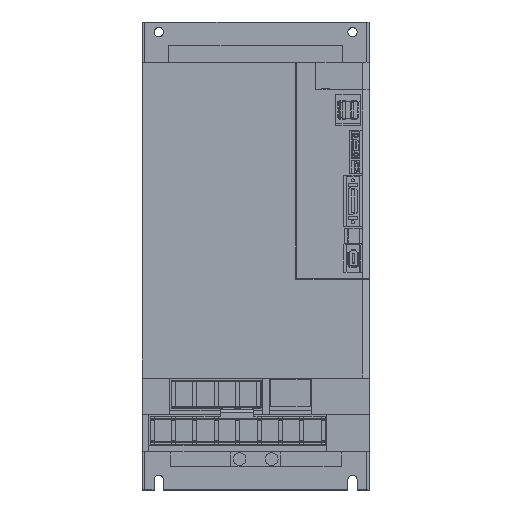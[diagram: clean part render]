
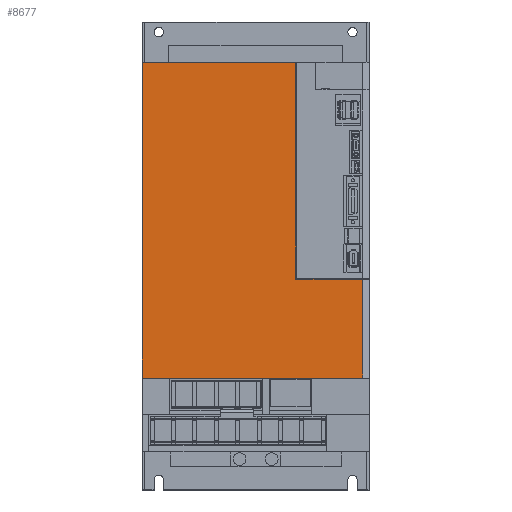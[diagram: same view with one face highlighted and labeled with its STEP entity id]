
A CAD part, top view. The second image highlights one B-rep face of the part: STEP entity #8677.
In plain terms, the highlighted planar face has unit normal (0, 0, 1).
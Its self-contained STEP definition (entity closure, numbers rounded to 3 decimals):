
#8387 = VERTEX_POINT ( 'NONE', #35354 ) ;
#8473 = EDGE_CURVE ( 'NONE', #8474, #8387, #35530, .T. ) ;
#8474 = VERTEX_POINT ( 'NONE', #35525 ) ;
#8658 = ORIENTED_EDGE ( 'NONE', *, *, #8659, .T. ) ;
#8659 = EDGE_CURVE ( 'NONE', #8685, #8474, #35816, .T. ) ;
#8660 = ORIENTED_EDGE ( 'NONE', *, *, #8473, .T. ) ;
#8662 = ORIENTED_EDGE ( 'NONE', *, *, #8693, .T. ) ;
#8663 = ORIENTED_EDGE ( 'NONE', *, *, #8664, .T. ) ;
#8664 = EDGE_CURVE ( 'NONE', #8691, #8682, #35869, .T. ) ;
#8677 = ADVANCED_FACE ( 'NONE', ( #35849 ), #35848, .T. ) ;
#8678 = EDGE_LOOP ( 'NONE', ( #8679, #8683, #8658, #8660, #8662, #8663 ) ) ;
#8679 = ORIENTED_EDGE ( 'NONE', *, *, #8680, .F. ) ;
#8680 = EDGE_CURVE ( 'NONE', #8681, #8682, #35843, .T. ) ;
#8681 = VERTEX_POINT ( 'NONE', #35904 ) ;
#8682 = VERTEX_POINT ( 'NONE', #35903 ) ;
#8683 = ORIENTED_EDGE ( 'NONE', *, *, #8684, .F. ) ;
#8684 = EDGE_CURVE ( 'NONE', #8685, #8681, #35902, .T. ) ;
#8685 = VERTEX_POINT ( 'NONE', #35898 ) ;
#8691 = VERTEX_POINT ( 'NONE', #35887 ) ;
#8693 = EDGE_CURVE ( 'NONE', #8387, #8691, #35886, .T. ) ;
#35354 = CARTESIAN_POINT ( 'NONE',  ( -12.5, -23., 139. ) ) ;
#35525 = CARTESIAN_POINT ( 'NONE',  ( 102.5, -23., 139. ) ) ;
#35526 = DIRECTION ( 'NONE',  ( -1., 0., 0. ) ) ;
#35527 = VECTOR ( 'NONE', #35526, 1000. ) ;
#35529 = CARTESIAN_POINT ( 'NONE',  ( 157.5, -23., 139. ) ) ;
#35530 = LINE ( 'NONE', #35529, #35527 ) ;
#35816 = LINE ( 'NONE', #35873, #35872 ) ;
#35841 = VECTOR ( 'NONE', #35905, 1000. ) ;
#35842 = CARTESIAN_POINT ( 'NONE',  ( 152.5, -179.415, 139. ) ) ;
#35843 = LINE ( 'NONE', #35842, #35841 ) ;
#35844 = DIRECTION ( 'NONE',  ( 1., 0., 0. ) ) ;
#35845 = DIRECTION ( 'NONE',  ( 0., 0., 1. ) ) ;
#35846 = CARTESIAN_POINT ( 'NONE',  ( 0., 0., 139. ) ) ;
#35847 = AXIS2_PLACEMENT_3D ( 'NONE', #35846, #35845, #35844 ) ;
#35848 = PLANE ( 'NONE',  #35847 ) ;
#35849 = FACE_OUTER_BOUND ( 'NONE', #8678, .T. ) ;
#35866 = DIRECTION ( 'NONE',  ( 1., 0., 0. ) ) ;
#35867 = VECTOR ( 'NONE', #35866, 1000. ) ;
#35868 = CARTESIAN_POINT ( 'NONE',  ( -12.5, -259., 139. ) ) ;
#35869 = LINE ( 'NONE', #35868, #35867 ) ;
#35871 = DIRECTION ( 'NONE',  ( 0., 1., 0. ) ) ;
#35872 = VECTOR ( 'NONE', #35871, 1000. ) ;
#35873 = CARTESIAN_POINT ( 'NONE',  ( 102.5, -24., 139. ) ) ;
#35883 = DIRECTION ( 'NONE',  ( 0., -1., 0. ) ) ;
#35884 = VECTOR ( 'NONE', #35883, 1000. ) ;
#35885 = CARTESIAN_POINT ( 'NONE',  ( -12.5, -23., 139. ) ) ;
#35886 = LINE ( 'NONE', #35885, #35884 ) ;
#35887 = CARTESIAN_POINT ( 'NONE',  ( -12.5, -259., 139. ) ) ;
#35898 = CARTESIAN_POINT ( 'NONE',  ( 102.5, -185., 139. ) ) ;
#35899 = DIRECTION ( 'NONE',  ( 1., 0., 0. ) ) ;
#35900 = VECTOR ( 'NONE', #35899, 1000. ) ;
#35901 = CARTESIAN_POINT ( 'NONE',  ( 156.5, -185., 139. ) ) ;
#35902 = LINE ( 'NONE', #35901, #35900 ) ;
#35903 = CARTESIAN_POINT ( 'NONE',  ( 152.5, -259., 139. ) ) ;
#35904 = CARTESIAN_POINT ( 'NONE',  ( 152.5, -185., 139. ) ) ;
#35905 = DIRECTION ( 'NONE',  ( 0., -1., 0. ) ) ;
